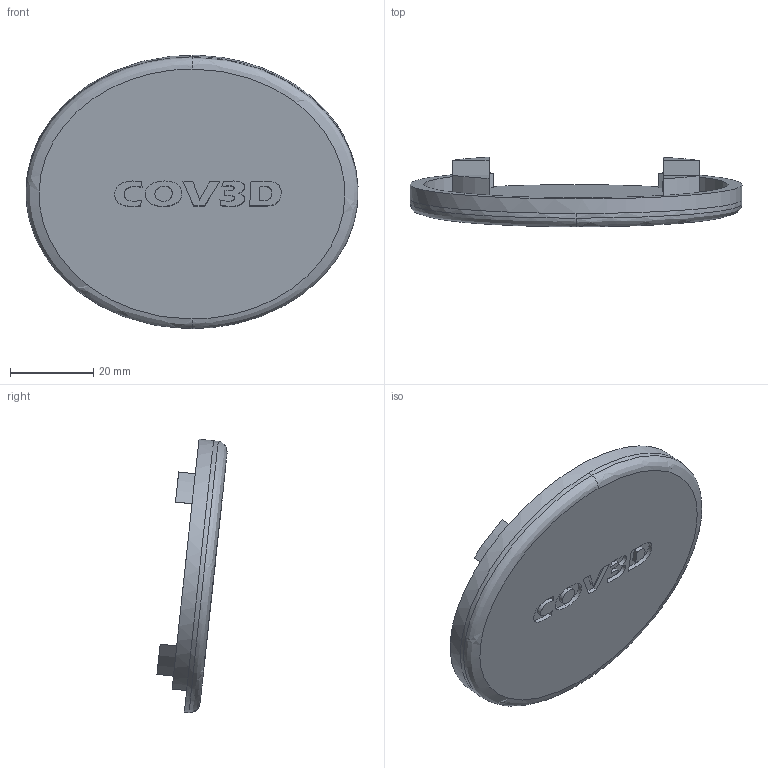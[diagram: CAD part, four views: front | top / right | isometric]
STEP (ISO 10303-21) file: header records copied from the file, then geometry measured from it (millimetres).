
FILE_DESCRIPTION(/* description */ (''),/* implementation_level */ '2;1');
FILE_NAME(/* name */ 'L-WIDE~1',/* time_stamp */ '2020-04-10T21:45:23+03:00',/* author */ (''),/* organization */ (''),/* preprocessor_version */ 'ST-DEVELOPER v16.5',/* originating_system */ '',/* authorisation */ '');
FILE_SCHEMA (('AUTOMOTIVE_DESIGN'));
Length unit declared in the file: millimetre
Products named in the file (1): Document
Bounding box: 79.61 x 16.82 x 65.56 mm (x, y, z)
Volume: 16854.5 mm3; surface area: 10988.4 mm2
Topology: 1 solids, 1 shells, 67 faces, 158 edges, 104 vertices
Faces by surface type: bspline 44, plane 23
Entity records: 2836 total; most frequent: CARTESIAN_POINT 1768, ORIENTED_EDGE 316, EDGE_CURVE 158, B_SPLINE_CURVE_WITH_KNOTS 131, VERTEX_POINT 104, EDGE_LOOP 78, ADVANCED_FACE 67, FACE_OUTER_BOUND 67
